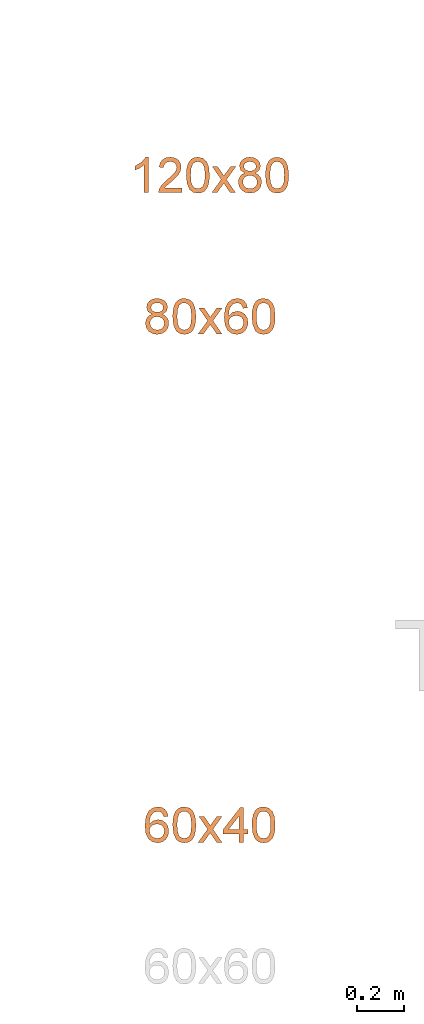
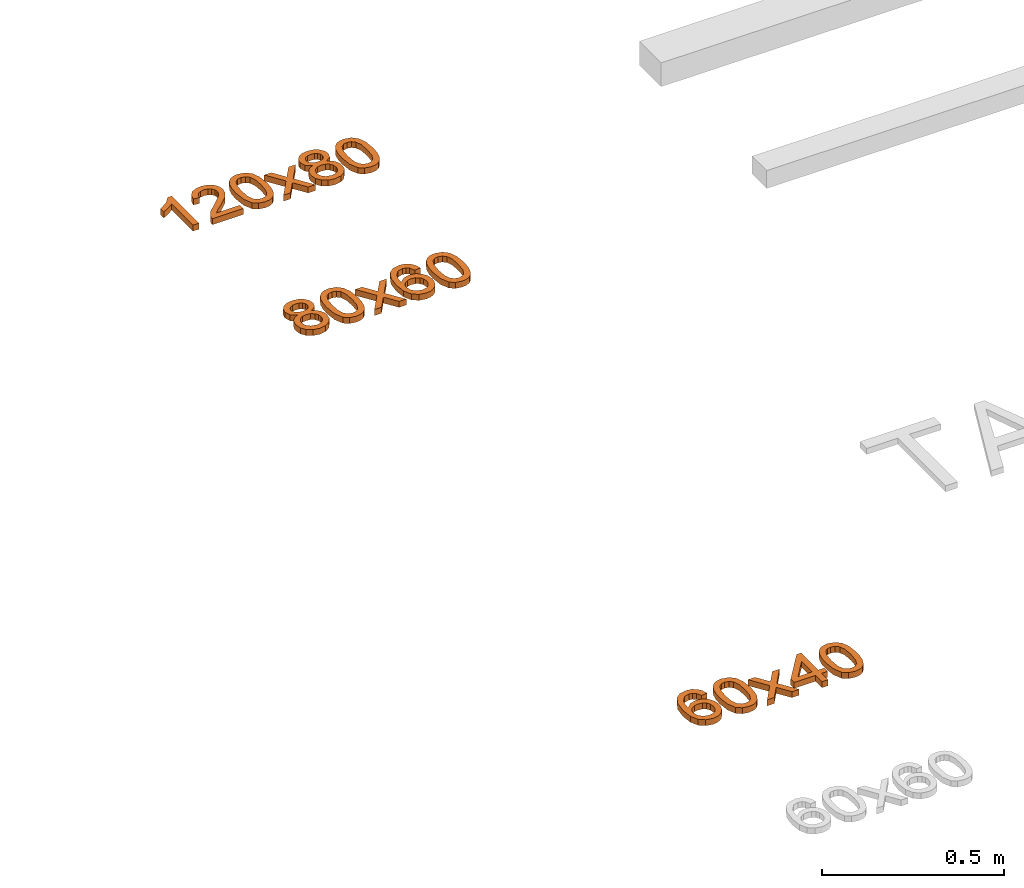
# One storey, part 46 of 71: 3 proxies.
"""IFC2X3 building model written with IfcOpenShell, lengths in millimetres."""

from ifc_helpers import new_model, entity, si_unit, converted_unit, derived_unit, direction, frame, origin, place, context, subcontext, project, spatial, polyline, outline, extrude, element, save


model = new_model("IFC2X3")

# Units and contexts
model_context = context("Model", 3, precision=0.01, world=origin(), true_north=direction((6.12303176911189e-17, 1.0)))
body_context = subcontext(model_context, "Body", "Model", "MODEL_VIEW")
ifc_project = project(units=[si_unit("LENGTHUNIT", "METRE", prefix="MILLI"), si_unit("AREAUNIT", "SQUARE_METRE"), si_unit("VOLUMEUNIT", "CUBIC_METRE"), converted_unit("PLANEANGLEUNIT", "DEGREE", entity("IfcRatioMeasure", 0.0174532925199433), si_unit("PLANEANGLEUNIT", "RADIAN"), dimensions=[0, 0, 0, 0, 0, 0, 0]), si_unit("MASSUNIT", "GRAM", prefix="KILO"), derived_unit("MASSDENSITYUNIT", [(si_unit("MASSUNIT", "GRAM", prefix="KILO"), 1), (si_unit("LENGTHUNIT", "METRE"), -3)]), si_unit("TIMEUNIT", "SECOND"), si_unit("FREQUENCYUNIT", "HERTZ"), si_unit("THERMODYNAMICTEMPERATUREUNIT", "DEGREE_CELSIUS"), derived_unit("THERMALTRANSMITTANCEUNIT", [(si_unit("MASSUNIT", "GRAM", prefix="KILO"), 1), (si_unit("THERMODYNAMICTEMPERATUREUNIT", "KELVIN"), -1), (si_unit("TIMEUNIT", "SECOND"), -3)]), derived_unit("VOLUMETRICFLOWRATEUNIT", [(si_unit("LENGTHUNIT", "METRE"), 3), (si_unit("TIMEUNIT", "SECOND"), -1)]), si_unit("ELECTRICCURRENTUNIT", "AMPERE"), si_unit("ELECTRICVOLTAGEUNIT", "VOLT"), si_unit("POWERUNIT", "WATT"), si_unit("FORCEUNIT", "NEWTON", prefix="KILO"), si_unit("ILLUMINANCEUNIT", "LUX"), si_unit("LUMINOUSFLUXUNIT", "LUMEN"), si_unit("LUMINOUSINTENSITYUNIT", "CANDELA"), derived_unit("USERDEFINED", [(si_unit("MASSUNIT", "GRAM", prefix="KILO"), -1), (si_unit("LENGTHUNIT", "METRE"), -2), (si_unit("TIMEUNIT", "SECOND"), 3), (si_unit("LUMINOUSFLUXUNIT", "LUMEN"), 1)]), derived_unit("LINEARVELOCITYUNIT", [(si_unit("LENGTHUNIT", "METRE"), 1), (si_unit("TIMEUNIT", "SECOND"), -1)]), si_unit("PRESSUREUNIT", "PASCAL"), derived_unit("USERDEFINED", [(si_unit("LENGTHUNIT", "METRE"), -2), (si_unit("MASSUNIT", "GRAM", prefix="KILO"), 1), (si_unit("TIMEUNIT", "SECOND"), -2)])], contexts=[model_context])

# Site, building, storey
site_placement = place(None, origin())
site = spatial("IfcSite", under=ifc_project, at=site_placement, Name="Default", CompositionType="ELEMENT")
building_placement = place(site_placement, origin())
building = spatial("IfcBuilding", under=site, at=building_placement, Name="Наименование здания", CompositionType="ELEMENT")
storey_placement = place(building_placement, origin())
storey = spatial("IfcBuildingStorey", under=building, at=storey_placement, Name="Этаж 01", CompositionType="ELEMENT", Elevation=0.0)

# Proxies
proxy_1_placement = place(storey_placement, origin())
element("IfcBuildingElementProxy", 1, at=proxy_1_placement, inside=storey, Name="Текст модели:150 мм Arial", ObjectType="Текст модели:150 мм Arial", context=body_context, shape_type="SweptSolid", body=[
    extrude(outline(polyline([(15.7651813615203, -48.1860315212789), (33.1249071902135, -48.1860315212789), (47.8048310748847, -42.6335730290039), (59.0229904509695, -32.0086730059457), (65.9974227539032, -16.7913484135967), (67.6956688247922, 5.42313881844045), (59.7847369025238, 25.1274854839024), (38.366011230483, 43.8886230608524), (3.31349801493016, 57.8763217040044), (-29.8328194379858, 63.2095238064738), (-54.3960837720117, 58.4629251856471), (-71.1715692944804, 45.4506503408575), (-80.9545503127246, 25.9868237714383), (-82.9064235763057, 12.9662485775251), (-81.3947830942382, 0.49390084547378), (-76.4834467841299, -10.9544464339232), (-68.2362325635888, -20.9030202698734), (-57.4318798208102, -28.7352219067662), (-44.8491279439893, -33.834452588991), (-25.3638110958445, -35.8072168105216), (-7.8909549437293, -30.3701056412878), (5.71390440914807, -18.9845116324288), (13.5952308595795, -3.11182733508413), (14.3582977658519, 18.0352208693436), (4.31104064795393, 38.0547274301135), (22.7539705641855, 31.4415369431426), (35.2322018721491, 23.9328881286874), (48.3021991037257, 6.9696251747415), (48.1600772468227, -10.6274852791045), (43.5144203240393, -20.0577002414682), (35.5694879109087, -26.7223178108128), (18.5256041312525, -29.4056766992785), (15.7651813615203, -48.1860315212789)]), holes=[polyline([(-22.5619572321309, 45.500571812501), (-11.8731662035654, 40.1101370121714), (-4.83626080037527, 30.873880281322), (-1.82438885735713, 19.2694635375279), (-3.21069820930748, 6.77454869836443), (-8.64892762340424, -5.36116347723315), (-17.0855588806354, -13.3353919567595), (-27.887694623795, -16.8272321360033), (-40.4224374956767, -15.5157794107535), (-52.3381234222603, -10.0239911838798), (-60.2195132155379, -1.26951526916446), (-63.6992427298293, 9.83465865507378), (-62.4099478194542, 22.3755409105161), (-53.9591253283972, 37.6514284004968), (-39.4491697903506, 45.6559566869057), (-22.5619572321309, 45.500571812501)])]), frame((-460.531488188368, 161.987075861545, 0.0), z_axis=(0.0, 0.0, 1.0), x_axis=(-0.267015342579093, 0.963692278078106, 0.0)), (0.0, 0.0, 1.0), 20.0),
    extrude(outline(polyline([(-5.36864641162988, -49.4475274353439), (31.473189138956, -49.4475274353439), (57.9722440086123, -40.8445682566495), (70.1905944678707, -27.1554040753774), (75.7521595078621, -8.05118638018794), (75.248921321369, 7.30564672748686), (70.3444850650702, 20.2193667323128), (60.9786621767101, 30.7793421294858), (47.0912640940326, 39.0749414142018), (28.420132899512, 45.1191376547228), (4.70311067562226, 48.9249039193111), (-30.8698575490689, 49.1278168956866), (-53.9468348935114, 42.6152057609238), (-69.4194337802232, 28.9263997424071), (-76.4908890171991, 7.53605673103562), (-75.9929440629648, -7.73702828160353), (-71.1268691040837, -20.6190853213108), (-61.8036228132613, -31.1885692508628), (-47.9341638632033, -39.5239349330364), (-29.2215018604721, -45.6139863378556), (-5.36864641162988, -49.4475274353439)]), holes=[polyline([(-3.4868133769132, -30.7061745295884), (-32.3490284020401, -25.458355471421), (-49.9139452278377, -16.7816147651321), (-56.4697700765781, -6.58792162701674), (-57.7757646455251, 5.39804548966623), (-53.6620197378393, 17.4947675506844), (-44.1234912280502, 26.4104625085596), (-26.2801372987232, 31.0181988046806), (2.74808386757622, 30.1910448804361), (31.9517393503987, 24.9822288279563), (48.3451643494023, 16.6473131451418), (55.5066665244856, 6.00331299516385), (57.0145535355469, -6.13275645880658), (53.0878028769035, -17.7124062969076), (43.9453920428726, -26.6871475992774), (26.2122202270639, -31.5280478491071), (-3.4868133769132, -30.7061745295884)])]), frame((-349.731782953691, 153.21116464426, 0.0), z_axis=(0.0, 0.0, 1.0), x_axis=(0.101851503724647, -0.994799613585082, 0.0)), (0.0, 0.0, 1.0), 20.0),
    extrude(outline(polyline([(-51.7953323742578, -57.6397510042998), (-29.1338014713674, -57.6397510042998), (-0.512582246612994, -18.0924365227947), (3.7180606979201, -24.1992776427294), (26.784261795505, -57.6397510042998), (49.4457926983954, -57.6397510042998), (11.1124888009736, -2.01599333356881), (50.9173206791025, 53.0191531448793), (28.2557897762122, 53.0191531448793), (7.43366884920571, 24.2507811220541), (0.0392407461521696, 14.0236616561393), (-8.49562154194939, 26.5316494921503), (-26.7793567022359, 53.0191531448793), (-49.4408876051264, 53.0191531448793), (-11.5490421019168, -2.01599333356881), (-51.7953323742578, -57.6397510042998)])), frame((-239.369177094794, 137.027115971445, 0.0)), (0.0, 0.0, 1.0), 20.0),
    extrude(outline(polyline([(-1.71232346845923, -54.5803105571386), (17.1232346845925, -54.5803105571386), (17.1232346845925, -19.2636390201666), (35.9587928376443, -19.2636390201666), (35.9587928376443, -0.428080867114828), (17.1232346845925, -0.428080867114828), (17.1232346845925, 93.749709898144), (2.9965660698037, 93.749709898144), (-69.9912217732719, -0.428080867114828), (-69.9912217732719, -19.2636390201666), (-1.71232346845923, -19.2636390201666), (-1.71232346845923, -54.5803105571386)]), holes=[polyline([(-1.71232346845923, -0.428080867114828), (-46.814656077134, -0.428080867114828), (-1.71232346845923, 57.7708507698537), (-1.71232346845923, -0.428080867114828)])]), frame((-115.223273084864, 133.967675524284, 0.0)), (0.0, 0.0, 1.0), 20.0),
    extrude(outline(polyline([(-5.36864641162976, -49.4475274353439), (31.4731891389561, -49.4475274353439), (57.9722440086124, -40.8445682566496), (70.1905944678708, -27.1554040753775), (75.7521595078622, -8.05118638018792), (75.248921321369, 7.30564672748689), (70.3444850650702, 20.2193667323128), (60.97866217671, 30.7793421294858), (47.0912640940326, 39.0749414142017), (28.4201328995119, 45.1191376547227), (4.7031106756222, 48.924903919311), (-30.869857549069, 49.1278168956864), (-53.9468348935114, 42.6152057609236), (-69.4194337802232, 28.9263997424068), (-76.4908890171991, 7.53605673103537), (-75.9929440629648, -7.73702828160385), (-71.1268691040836, -20.619085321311), (-61.8036228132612, -31.188569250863), (-47.9341638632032, -39.5239349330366), (-29.221501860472, -45.6139863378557), (-5.36864641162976, -49.4475274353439)]), holes=[polyline([(-3.48681337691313, -30.7061745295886), (-32.34902840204, -25.4583554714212), (-49.9139452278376, -16.7816147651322), (-56.469770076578, -6.58792162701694), (-57.775764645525, 5.39804548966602), (-53.6620197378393, 17.4947675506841), (-44.1234912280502, 26.4104625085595), (-26.2801372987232, 31.0181988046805), (2.74808386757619, 30.191044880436), (31.9517393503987, 24.9822288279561), (48.3451643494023, 16.6473131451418), (55.5066665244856, 6.00331299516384), (57.0145535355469, -6.1327564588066), (53.0878028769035, -17.7124062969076), (43.9453920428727, -26.6871475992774), (26.212220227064, -31.5280478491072), (-3.48681337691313, -30.7061745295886)])]), frame((-13.0461809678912, 153.21116464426, 0.0), z_axis=(0.0, 0.0, 1.0), x_axis=(0.101851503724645, -0.994799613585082, 0.0)), (0.0, 0.0, 1.0), 20.0),
])
proxy_2_placement = place(storey_placement, origin())
element("IfcBuildingElementProxy", 2, at=proxy_2_placement, inside=storey, Name="Текст модели:150 мм Arial", ObjectType="Текст модели:150 мм Arial", context=body_context, shape_type="SweptSolid", body=[
    extrude(outline(polyline([(-95.8189532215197, -25.3777263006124), (54.8655120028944, -25.3777263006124), (54.8655120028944, -13.2376204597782), (34.8159432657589, 3.51940442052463), (17.194395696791, 31.1289481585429), (-0.611092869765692, 31.1289481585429), (8.89865670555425, 11.3001086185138), (21.6089796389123, -6.54216814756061), (-95.8189532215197, -6.54216814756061), (-95.8189532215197, -25.3777263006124)])), frame((-527.265042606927, 2935.20631818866, 0.0), z_axis=(0.0, 0.0, 1.0), x_axis=(0.0, 1.0, 0.0)), (0.0, 0.0, 1.0), 20.0),
    extrude(outline(polyline([(-47.8510638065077, -72.8483486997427), (-47.8510638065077, -91.6839068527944), (51.035616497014, -91.6839068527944), (49.0122655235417, -78.6976724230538), (37.5711354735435, -58.7032859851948), (13.9898995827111, -36.8694895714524), (-18.5308687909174, -5.48915538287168), (-24.6285128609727, 5.32657527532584), (-26.6610608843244, 15.8480003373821), (-24.7434759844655, 25.2795749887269), (-18.9907212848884, 33.1200600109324), (-10.1477578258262, 38.4037651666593), (1.04045335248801, 40.165000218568), (12.7896845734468, 38.4451518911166), (21.917756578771, 33.2856069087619), (27.8084670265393, 25.0910354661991), (29.8456135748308, 14.266107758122), (48.6811717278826, 16.6205525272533), (44.1148364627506, 34.8399083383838), (34.2418034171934, 48.1480395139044), (19.5771073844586, 56.2874286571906), (0.635783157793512, 59.0005583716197), (-18.4434968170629, 55.9839260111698), (-33.0806017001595, 46.9340289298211), (-42.3926147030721, 33.4143656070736), (-45.4966190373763, 16.9884345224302), (-42.1488928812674, -0.872236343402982), (-31.0204625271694, -19.3399125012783), (-4.03631818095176, -45.14683446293), (17.6319313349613, -63.265022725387), (26.1300054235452, -72.8483486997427), (-47.8510638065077, -72.8483486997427)])), frame((-408.471693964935, 2931.07127181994, 0.0), z_axis=(0.0, 0.0, -1.0), x_axis=(-1.0, 0.0, 0.0)), (0.0, 0.0, -1.0), 20.0),
    extrude(outline(polyline([(-5.36864641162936, -49.447527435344), (31.4731891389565, -49.447527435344), (57.9722440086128, -40.8445682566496), (70.1905944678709, -27.1554040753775), (75.7521595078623, -8.05118638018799), (75.2489213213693, 7.3056467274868), (70.3444850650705, 20.2193667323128), (60.9786621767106, 30.7793421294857), (47.0912640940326, 39.0749414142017), (28.4201328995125, 45.1191376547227), (4.70311067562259, 48.9249039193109), (-30.8698575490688, 49.1278168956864), (-53.9468348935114, 42.6152057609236), (-69.4194337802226, 28.9263997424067), (-76.4908890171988, 7.53605673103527), (-75.9929440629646, -7.73702828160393), (-71.1268691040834, -20.6190853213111), (-61.8036228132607, -31.1885692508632), (-47.9341638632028, -39.5239349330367), (-29.2215018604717, -45.6139863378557), (-5.36864641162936, -49.447527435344)]), holes=[polyline([(-3.48681337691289, -30.7061745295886), (-32.3490284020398, -25.4583554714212), (-49.9139452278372, -16.7816147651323), (-56.4697700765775, -6.58792162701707), (-57.7757646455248, 5.39804548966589), (-53.6620197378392, 17.4947675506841), (-44.1234912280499, 26.4104625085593), (-26.2801372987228, 31.0181988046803), (2.74808386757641, 30.1910448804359), (31.9517393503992, 24.9822288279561), (48.3451643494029, 16.6473131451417), (55.5066665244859, 6.00331299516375), (57.0145535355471, -6.13275645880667), (53.087802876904, -17.7124062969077), (43.9453920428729, -26.6871475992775), (26.2122202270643, -31.5280478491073), (-3.48681337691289, -30.7061745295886)])]), frame((-292.047886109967, 2913.21116464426, 0.0), z_axis=(0.0, 0.0, 1.0), x_axis=(0.101851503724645, -0.994799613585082, 0.0)), (0.0, 0.0, 1.0), 20.0),
    extrude(outline(polyline([(-51.7953323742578, -57.6397510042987), (-29.1338014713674, -57.6397510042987), (-0.512582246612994, -18.0924365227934), (3.71806069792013, -24.1992776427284), (26.784261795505, -57.6397510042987), (49.4457926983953, -57.6397510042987), (11.1124888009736, -2.01599333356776), (50.9173206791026, 53.0191531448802), (28.2557897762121, 53.0191531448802), (7.43366884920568, 24.2507811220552), (0.0392407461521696, 14.0236616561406), (-8.49562154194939, 26.5316494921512), (-26.779356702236, 53.0191531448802), (-49.4408876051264, 53.0191531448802), (-11.5490421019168, -2.01599333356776), (-51.7953323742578, -57.6397510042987)])), frame((-181.68528025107, 2897.02711597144, 0.0)), (0.0, 0.0, 1.0), 20.0),
    extrude(outline(polyline([(17.2490220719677, -15.3295381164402), (30.0349856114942, -15.3295381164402), (41.3817836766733, -11.1735131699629), (50.8793866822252, -3.10065381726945), (58.1177650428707, 8.64984940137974), (62.5274354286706, 26.7590924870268), (59.3759035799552, 44.6472980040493), (49.1101665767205, 60.2581523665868), (32.1772214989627, 71.5353419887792), (12.5085296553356, 76.7266949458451), (-5.96444764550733, 74.0800393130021), (-21.3768762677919, 64.6931270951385), (-31.8639220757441, 49.6637102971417), (-35.7012049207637, 36.9439614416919), (-35.5988562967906, 24.6212096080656), (-31.5092444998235, 13.1378871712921), (-23.3847378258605, 2.93642650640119), (-43.3753141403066, -0.843069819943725), (-55.6693480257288, -14.7778571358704), (-58.9143372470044, -29.5335239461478), (-55.5267704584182, -44.6086407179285), (-45.8768386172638, -58.1125066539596), (-30.3347326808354, -68.1544209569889), (-12.634553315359, -73.126390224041), (3.62381436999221, -71.480754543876), (16.91722756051, -64.115940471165), (25.722543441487, -51.9303745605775), (28.1053988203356, -33.0360683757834), (17.2490220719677, -15.3295381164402)]), holes=[polyline([(40.6666730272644, 15.7685663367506), (34.3444111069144, 6.560729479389), (25.2119844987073, 0.814354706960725), (14.0709024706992, -0.741832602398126), (1.72267429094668, 2.62089292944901), (-9.27548616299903, 9.78324579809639), (-15.7623950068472, 19.3544397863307), (-17.668853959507, 30.2546773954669), (-14.9256647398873, 41.4041611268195), (-8.54368457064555, 50.7111976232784), (0.617063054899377, 56.4196324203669), (11.8179427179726, 57.8733123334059), (24.3203189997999, 54.4160841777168), (37.8139573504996, 44.2362363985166), (43.6124557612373, 29.9932190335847), (40.6666730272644, 15.7685663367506)]), polyline([(8.76920273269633, -43.7043792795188), (4.16714657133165, -49.8033212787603), (-3.06267131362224, -53.4706515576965), (-12.2805835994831, -54.0460623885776), (-22.8469229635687, -50.8692460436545), (-32.1606477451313, -45.074148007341), (-37.8220396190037, -37.7042135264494), (-39.8160813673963, -29.6232964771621), (-38.1277557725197, -21.6952507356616), (-33.488030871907, -15.4115704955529), (-26.3563739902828, -11.6597799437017), (-17.2378531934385, -11.0699406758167), (-6.63753654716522, -14.2721142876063), (3.02911931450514, -20.1905718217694), (8.74268775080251, -27.4780836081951), (10.6178288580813, -35.5206769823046), (8.76920273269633, -43.7043792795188)])]), frame((-71.0055294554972, 2915.47193089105, 0.0), z_axis=(0.0, 0.0, 1.0), x_axis=(-0.912082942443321, -0.410005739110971, 0.0)), (0.0, 0.0, 1.0), 20.0),
    extrude(outline(polyline([(-5.36864641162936, -49.447527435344), (31.4731891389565, -49.447527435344), (57.9722440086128, -40.8445682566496), (70.1905944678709, -27.1554040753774), (75.7521595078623, -8.0511863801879), (75.2489213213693, 7.30564672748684), (70.3444850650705, 20.2193667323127), (60.9786621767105, 30.7793421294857), (47.0912640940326, 39.0749414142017), (28.4201328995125, 45.1191376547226), (4.70311067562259, 48.9249039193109), (-30.8698575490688, 49.1278168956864), (-53.9468348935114, 42.6152057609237), (-69.4194337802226, 28.9263997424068), (-76.4908890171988, 7.53605673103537), (-75.9929440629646, -7.73702828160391), (-71.1268691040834, -20.6190853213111), (-61.8036228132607, -31.1885692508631), (-47.9341638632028, -39.5239349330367), (-29.2215018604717, -45.6139863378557), (-5.36864641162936, -49.447527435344)]), holes=[polyline([(-3.48681337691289, -30.7061745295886), (-32.3490284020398, -25.4583554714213), (-49.9139452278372, -16.7816147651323), (-56.4697700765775, -6.58792162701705), (-57.7757646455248, 5.39804548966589), (-53.6620197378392, 17.4947675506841), (-44.1234912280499, 26.4104625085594), (-26.2801372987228, 31.0181988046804), (2.74808386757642, 30.191044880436), (31.9517393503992, 24.9822288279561), (48.3451643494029, 16.6473131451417), (55.5066665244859, 6.00331299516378), (57.0145535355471, -6.13275645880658), (53.087802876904, -17.7124062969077), (43.9453920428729, -26.6871475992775), (26.2122202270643, -31.5280478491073), (-3.48681337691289, -30.7061745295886)])]), frame((44.6377158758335, 2913.21116464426, 0.0), z_axis=(0.0, 0.0, 1.0), x_axis=(0.101851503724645, -0.994799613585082, 0.0)), (0.0, 0.0, 1.0), 20.0),
])
proxy_3_placement = place(storey_placement, origin())
element("IfcBuildingElementProxy", 3, at=proxy_3_placement, inside=storey, Name="Текст модели:150 мм Arial", ObjectType="Текст модели:150 мм Arial", context=body_context, shape_type="SweptSolid", body=[
    extrude(outline(polyline([(17.2490220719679, -15.3295381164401), (30.0349856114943, -15.3295381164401), (41.3817836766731, -11.1735131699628), (50.8793866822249, -3.10065381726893), (58.1177650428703, 8.64984940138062), (62.5274354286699, 26.7590924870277), (59.3759035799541, 44.64729800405), (49.110166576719, 60.2581523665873), (32.1772214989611, 71.5353419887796), (12.5085296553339, 76.7266949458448), (-5.96444764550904, 74.0800393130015), (-21.3768762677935, 64.6931270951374), (-31.8639220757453, 49.6637102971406), (-35.7012049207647, 36.9439614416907), (-35.5988562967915, 24.6212096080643), (-31.5092444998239, 13.1378871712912), (-23.3847378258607, 2.93642650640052), (-43.3753141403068, -0.843069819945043), (-55.6693480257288, -14.777857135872), (-58.9143372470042, -29.5335239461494), (-55.5267704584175, -44.6086407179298), (-45.8768386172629, -58.1125066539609), (-30.3347326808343, -68.1544209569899), (-12.6345533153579, -73.1263902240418), (3.62381436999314, -71.4807545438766), (16.9172275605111, -64.1159404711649), (25.7225434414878, -51.9303745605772), (28.105398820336, -33.0360683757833), (17.2490220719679, -15.3295381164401)]), holes=[polyline([(8.76920273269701, -43.7043792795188), (4.16714657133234, -49.8033212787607), (-3.06267131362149, -53.470651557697), (-12.2805835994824, -54.0460623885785), (-22.846922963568, -50.8692460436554), (-32.1606477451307, -45.0741480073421), (-37.8220396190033, -37.7042135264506), (-39.8160813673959, -29.623296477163), (-38.1277557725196, -21.6952507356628), (-33.4880308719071, -15.4115704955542), (-26.356373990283, -11.6597799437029), (-17.2378531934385, -11.0699406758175), (-6.63753654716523, -14.2721142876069), (3.02911931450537, -20.1905718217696), (8.74268775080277, -27.4780836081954), (10.6178288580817, -35.5206769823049), (8.76920273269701, -43.7043792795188)]), polyline([(40.6666730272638, 15.7685663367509), (34.344411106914, 6.56072947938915), (25.211984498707, 0.814354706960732), (14.0709024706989, -0.741832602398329), (1.72267429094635, 2.62089292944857), (-9.2754861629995, 9.78324579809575), (-15.7623950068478, 19.35443978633), (-17.6688539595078, 30.2546773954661), (-14.9256647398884, 41.4041611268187), (-8.54368457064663, 50.711197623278), (0.617063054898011, 56.4196324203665), (11.8179427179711, 57.8733123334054), (24.3203189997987, 54.416084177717), (37.8139573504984, 44.2362363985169), (43.6124557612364, 29.9932190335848), (40.6666730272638, 15.7685663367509)])]), frame((-465.37502828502, 2315.47193089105, 0.0), z_axis=(0.0, 0.0, 1.0), x_axis=(-0.912082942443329, -0.410005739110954, 0.0)), (0.0, 0.0, 1.0), 20.0),
    extrude(outline(polyline([(-5.36864641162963, -49.447527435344), (31.4731891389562, -49.447527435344), (57.9722440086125, -40.8445682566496), (70.1905944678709, -27.1554040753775), (75.7521595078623, -8.05118638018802), (75.248921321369, 7.3056467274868), (70.3444850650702, 20.2193667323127), (60.97866217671, 30.7793421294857), (47.0912640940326, 39.0749414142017), (28.4201328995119, 45.1191376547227), (4.70311067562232, 48.9249039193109), (-30.8698575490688, 49.1278168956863), (-53.9468348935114, 42.6152057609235), (-69.4194337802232, 28.9263997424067), (-76.4908890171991, 7.53605673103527), (-75.9929440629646, -7.7370282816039), (-71.1268691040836, -20.6190853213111), (-61.8036228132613, -31.1885692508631), (-47.9341638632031, -39.5239349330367), (-29.221501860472, -45.6139863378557), (-5.36864641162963, -49.447527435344)]), holes=[polyline([(-3.48681337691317, -30.7061745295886), (-32.3490284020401, -25.4583554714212), (-49.9139452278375, -16.7816147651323), (-56.469770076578, -6.58792162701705), (-57.7757646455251, 5.39804548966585), (-53.6620197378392, 17.494767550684), (-44.1234912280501, 26.4104625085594), (-26.2801372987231, 31.0181988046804), (2.74808386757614, 30.1910448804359), (31.9517393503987, 24.982228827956), (48.3451643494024, 16.6473131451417), (55.5066665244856, 6.00331299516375), (57.0145535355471, -6.1327564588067), (53.0878028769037, -17.7124062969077), (43.9453920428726, -26.6871475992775), (26.212220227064, -31.5280478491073), (-3.48681337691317, -30.7061745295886)])]), frame((-349.731782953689, 2313.21116464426, 0.0), z_axis=(0.0, 0.0, 1.0), x_axis=(0.101851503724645, -0.994799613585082, 0.0)), (0.0, 0.0, 1.0), 20.0),
    extrude(outline(polyline([(-51.7953323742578, -57.6397510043), (-29.1338014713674, -57.6397510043), (-0.512582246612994, -18.0924365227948), (3.7180606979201, -24.1992776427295), (26.784261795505, -57.6397510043), (49.4457926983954, -57.6397510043), (11.1124888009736, -2.01599333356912), (50.9173206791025, 53.0191531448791), (28.2557897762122, 53.0191531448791), (7.43366884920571, 24.2507811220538), (0.0392407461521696, 14.023661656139), (-8.49562154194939, 26.5316494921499), (-26.7793567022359, 53.0191531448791), (-49.4408876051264, 53.0191531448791), (-11.5490421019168, -2.01599333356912), (-51.7953323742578, -57.6397510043)])), frame((-239.369177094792, 2297.02711597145, 0.0)), (0.0, 0.0, 1.0), 20.0),
    extrude(outline(polyline([(15.7651813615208, -48.1860315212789), (33.1249071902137, -48.1860315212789), (47.8048310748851, -42.6335730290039), (59.0229904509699, -32.0086730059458), (65.9974227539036, -16.7913484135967), (67.6956688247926, 5.42313881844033), (59.7847369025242, 25.1274854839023), (38.3660112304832, 43.8886230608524), (3.31349801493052, 57.8763217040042), (-29.8328194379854, 63.2095238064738), (-54.3960837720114, 58.462925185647), (-71.1715692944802, 45.4506503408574), (-80.9545503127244, 25.9868237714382), (-82.9064235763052, 12.966248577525), (-81.394783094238, 0.493900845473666), (-76.4834467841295, -10.9544464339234), (-68.2362325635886, -20.9030202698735), (-57.4318798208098, -28.7352219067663), (-44.849127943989, -33.8344525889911), (-25.3638110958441, -35.8072168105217), (-7.89095494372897, -30.3701056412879), (5.71390440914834, -18.9845116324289), (13.5952308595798, -3.11182733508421), (14.3582977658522, 18.0352208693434), (4.31104064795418, 38.0547274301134), (22.7539705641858, 31.4415369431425), (35.2322018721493, 23.9328881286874), (48.3021991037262, 6.96962517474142), (48.1600772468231, -10.6274852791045), (43.5144203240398, -20.0577002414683), (35.569487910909, -26.722317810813), (18.5256041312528, -29.4056766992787), (15.7651813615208, -48.1860315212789)]), holes=[polyline([(-22.5619572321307, 45.5005718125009), (-11.8731662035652, 40.1101370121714), (-4.83626080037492, 30.8738802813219), (-1.82438885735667, 19.2694635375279), (-3.2106982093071, 6.77454869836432), (-8.64892762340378, -5.36116347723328), (-17.0855588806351, -13.3353919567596), (-27.8876946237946, -16.8272321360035), (-40.4224374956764, -15.5157794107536), (-52.33812342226, -10.0239911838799), (-60.2195132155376, -1.2695152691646), (-63.6992427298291, 9.83465865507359), (-62.4099478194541, 22.375540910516), (-53.9591253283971, 37.6514284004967), (-39.4491697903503, 45.6559566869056), (-22.5619572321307, 45.5005718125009)])]), frame((-123.845886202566, 2321.98707586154, 0.0), z_axis=(0.0, 0.0, 1.0), x_axis=(-0.267015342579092, 0.963692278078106, 0.0)), (0.0, 0.0, 1.0), 20.0),
    extrude(outline(polyline([(-5.36864641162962, -49.4475274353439), (31.4731891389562, -49.4475274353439), (57.9722440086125, -40.8445682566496), (70.1905944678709, -27.1554040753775), (75.7521595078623, -8.05118638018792), (75.248921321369, 7.3056467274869), (70.3444850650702, 20.2193667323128), (60.97866217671, 30.7793421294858), (47.0912640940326, 39.0749414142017), (28.4201328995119, 45.1191376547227), (4.70311067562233, 48.924903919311), (-30.8698575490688, 49.1278168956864), (-53.9468348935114, 42.6152057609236), (-69.4194337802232, 28.9263997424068), (-76.490889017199, 7.53605673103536), (-75.9929440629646, -7.73702828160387), (-71.1268691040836, -20.619085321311), (-61.8036228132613, -31.188569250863), (-47.9341638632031, -39.5239349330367), (-29.221501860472, -45.6139863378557), (-5.36864641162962, -49.4475274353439)]), holes=[polyline([(-3.48681337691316, -30.7061745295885), (-32.3490284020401, -25.4583554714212), (-49.9139452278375, -16.7816147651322), (-56.469770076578, -6.58792162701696), (-57.775764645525, 5.39804548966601), (-53.6620197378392, 17.4947675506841), (-44.1234912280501, 26.4104625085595), (-26.2801372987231, 31.0181988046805), (2.74808386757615, 30.191044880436), (31.9517393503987, 24.9822288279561), (48.3451643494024, 16.6473131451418), (55.5066665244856, 6.00331299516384), (57.0145535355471, -6.13275645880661), (53.0878028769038, -17.7124062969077), (43.9453920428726, -26.6871475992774), (26.212220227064, -31.5280478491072), (-3.48681337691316, -30.7061745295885)])]), frame((-13.0461809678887, 2313.21116464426, 0.0), z_axis=(0.0, 0.0, 1.0), x_axis=(0.101851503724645, -0.994799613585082, 0.0)), (0.0, 0.0, 1.0), 20.0),
])

save(model, "model.ifc")
